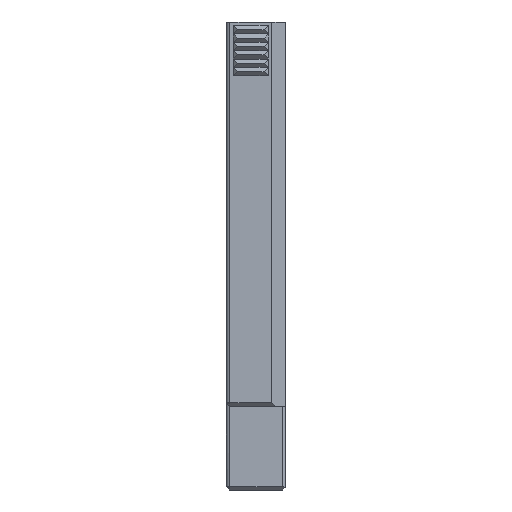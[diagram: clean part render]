
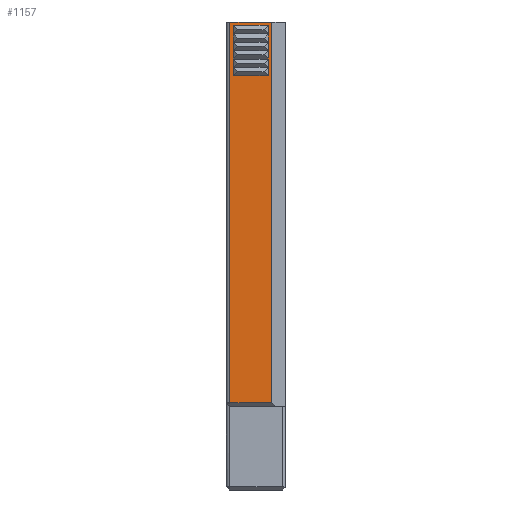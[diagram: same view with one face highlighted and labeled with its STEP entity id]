
A CAD part, left-side view. The second image highlights one B-rep face of the part: STEP entity #1157.
In plain terms, the highlighted planar face has unit normal (-1, 0, 0).
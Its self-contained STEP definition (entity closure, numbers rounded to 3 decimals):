
#1 = EDGE_LOOP ( 'NONE', ( #4301, #2356, #5612, #6328 ) ) ;
#10 = VECTOR ( 'NONE', #3123, 1000. ) ;
#36 = CARTESIAN_POINT ( 'NONE',  ( 0., 4., 0. ) ) ;
#44 = VERTEX_POINT ( 'NONE', #6958 ) ;
#98 = CARTESIAN_POINT ( 'NONE',  ( 0., 15., -8.2 ) ) ;
#125 = LINE ( 'NONE', #681, #4445 ) ;
#295 = LINE ( 'NONE', #5988, #6943 ) ;
#296 = DIRECTION ( 'NONE',  ( 0., 0., 1. ) ) ;
#351 = VERTEX_POINT ( 'NONE', #1301 ) ;
#419 = EDGE_CURVE ( 'NONE', #1735, #4214, #295, .T. ) ;
#429 = EDGE_CURVE ( 'NONE', #2175, #4507, #2673, .T. ) ;
#437 = VECTOR ( 'NONE', #5525, 1000. ) ;
#457 = EDGE_CURVE ( 'NONE', #3815, #3823, #1328, .T. ) ;
#483 = ORIENTED_EDGE ( 'NONE', *, *, #6180, .T. ) ;
#555 = CARTESIAN_POINT ( 'NONE',  ( 0., 5., -8.2 ) ) ;
#622 = VECTOR ( 'NONE', #2634, 1000. ) ;
#681 = CARTESIAN_POINT ( 'NONE',  ( 0., 15., -1. ) ) ;
#727 = CARTESIAN_POINT ( 'NONE',  ( 0., 15., -10.6 ) ) ;
#769 = VECTOR ( 'NONE', #7278, 1000. ) ;
#791 = VERTEX_POINT ( 'NONE', #4875 ) ;
#837 = ORIENTED_EDGE ( 'NONE', *, *, #419, .T. ) ;
#856 = DIRECTION ( 'NONE',  ( 0., 0., -1. ) ) ;
#866 = CARTESIAN_POINT ( 'NONE',  ( 0., 17., -109. ) ) ;
#945 = ORIENTED_EDGE ( 'NONE', *, *, #7198, .T. ) ;
#964 = ORIENTED_EDGE ( 'NONE', *, *, #2866, .T. ) ;
#1052 = CARTESIAN_POINT ( 'NONE',  ( 0., 5., -1. ) ) ;
#1103 = CARTESIAN_POINT ( 'NONE',  ( 0., 15., -13. ) ) ;
#1129 = DIRECTION ( 'NONE',  ( 0., 0., -1. ) ) ;
#1157 = ADVANCED_FACE ( 'NONE', ( #2219, #5362 ), #7482, .F. ) ;
#1176 = LINE ( 'NONE', #6540, #4481 ) ;
#1301 = CARTESIAN_POINT ( 'NONE',  ( 0., 15., -8.2 ) ) ;
#1328 = LINE ( 'NONE', #7119, #769 ) ;
#1463 = EDGE_CURVE ( 'NONE', #3199, #5294, #6476, .T. ) ;
#1559 = CARTESIAN_POINT ( 'NONE',  ( 0., 5., -8.2 ) ) ;
#1607 = VERTEX_POINT ( 'NONE', #6802 ) ;
#1613 = DIRECTION ( 'NONE',  ( 0., 0., -1. ) ) ;
#1659 = EDGE_CURVE ( 'NONE', #5436, #791, #6365, .T. ) ;
#1735 = VERTEX_POINT ( 'NONE', #4571 ) ;
#1932 = ORIENTED_EDGE ( 'NONE', *, *, #7181, .T. ) ;
#2135 = CARTESIAN_POINT ( 'NONE',  ( 0., 5., -1. ) ) ;
#2175 = VERTEX_POINT ( 'NONE', #1103 ) ;
#2178 = DIRECTION ( 'NONE',  ( 0., 0., -1. ) ) ;
#2200 = CARTESIAN_POINT ( 'NONE',  ( 0., 5., -15.4 ) ) ;
#2219 = FACE_BOUND ( 'NONE', #4636, .T. ) ;
#2328 = VECTOR ( 'NONE', #3560, 1000. ) ;
#2351 = LINE ( 'NONE', #5991, #4750 ) ;
#2356 = ORIENTED_EDGE ( 'NONE', *, *, #5216, .T. ) ;
#2385 = EDGE_CURVE ( 'NONE', #351, #1607, #5955, .T. ) ;
#2424 = VERTEX_POINT ( 'NONE', #6197 ) ;
#2426 = DIRECTION ( 'NONE',  ( 0., 0., 1. ) ) ;
#2459 = DIRECTION ( 'NONE',  ( 0., -1., 0. ) ) ;
#2473 = CARTESIAN_POINT ( 'NONE',  ( 0., 15., -10.6 ) ) ;
#2514 = ORIENTED_EDGE ( 'NONE', *, *, #3762, .T. ) ;
#2634 = DIRECTION ( 'NONE',  ( 0., 0., 1. ) ) ;
#2673 = LINE ( 'NONE', #2473, #2328 ) ;
#2684 = DIRECTION ( 'NONE',  ( 0., 0., -1. ) ) ;
#2687 = ORIENTED_EDGE ( 'NONE', *, *, #6350, .T. ) ;
#2784 = LINE ( 'NONE', #6991, #6683 ) ;
#2826 = LINE ( 'NONE', #866, #437 ) ;
#2844 = CARTESIAN_POINT ( 'NONE',  ( 0., 16., 0. ) ) ;
#2866 = EDGE_CURVE ( 'NONE', #4507, #351, #6398, .T. ) ;
#2884 = CARTESIAN_POINT ( 'NONE',  ( 0., 15., -3.4 ) ) ;
#2888 = VECTOR ( 'NONE', #7269, 1000. ) ;
#2918 = EDGE_CURVE ( 'NONE', #3252, #2424, #5837, .T. ) ;
#3024 = EDGE_CURVE ( 'NONE', #3252, #3823, #5747, .T. ) ;
#3044 = ORIENTED_EDGE ( 'NONE', *, *, #2385, .T. ) ;
#3070 = DIRECTION ( 'NONE',  ( 0., 0., 1. ) ) ;
#3097 = CARTESIAN_POINT ( 'NONE',  ( 0., 5., -3.4 ) ) ;
#3123 = DIRECTION ( 'NONE',  ( 0., 1., 0. ) ) ;
#3175 = EDGE_CURVE ( 'NONE', #5105, #4435, #2784, .T. ) ;
#3199 = VERTEX_POINT ( 'NONE', #2200 ) ;
#3252 = VERTEX_POINT ( 'NONE', #2844 ) ;
#3393 = CARTESIAN_POINT ( 'NONE',  ( 0., 17., -110. ) ) ;
#3462 = VECTOR ( 'NONE', #5987, 1000. ) ;
#3463 = VERTEX_POINT ( 'NONE', #2884 ) ;
#3560 = DIRECTION ( 'NONE',  ( 0., 0., 1. ) ) ;
#3661 = CARTESIAN_POINT ( 'NONE',  ( 0., 15., -5.8 ) ) ;
#3735 = CARTESIAN_POINT ( 'NONE',  ( 0., 5., -10.6 ) ) ;
#3759 = DIRECTION ( 'NONE',  ( 0., 0., -1. ) ) ;
#3762 = EDGE_CURVE ( 'NONE', #3463, #1735, #125, .T. ) ;
#3815 = VERTEX_POINT ( 'NONE', #5393 ) ;
#3823 = VERTEX_POINT ( 'NONE', #36 ) ;
#4117 = ORIENTED_EDGE ( 'NONE', *, *, #6518, .T. ) ;
#4199 = LINE ( 'NONE', #4411, #2888 ) ;
#4214 = VERTEX_POINT ( 'NONE', #1052 ) ;
#4246 = AXIS2_PLACEMENT_3D ( 'NONE', #3393, #4581, #1129 ) ;
#4260 = ORIENTED_EDGE ( 'NONE', *, *, #1463, .T. ) ;
#4301 = ORIENTED_EDGE ( 'NONE', *, *, #2918, .T. ) ;
#4378 = VECTOR ( 'NONE', #296, 1000. ) ;
#4388 = LINE ( 'NONE', #2135, #6780 ) ;
#4392 = ORIENTED_EDGE ( 'NONE', *, *, #6234, .T. ) ;
#4411 = CARTESIAN_POINT ( 'NONE',  ( 0., 5., -13. ) ) ;
#4435 = VERTEX_POINT ( 'NONE', #6531 ) ;
#4445 = VECTOR ( 'NONE', #5935, 1000. ) ;
#4481 = VECTOR ( 'NONE', #2426, 1000. ) ;
#4507 = VERTEX_POINT ( 'NONE', #727 ) ;
#4551 = VECTOR ( 'NONE', #6806, 1000. ) ;
#4571 = CARTESIAN_POINT ( 'NONE',  ( 0., 15., -1. ) ) ;
#4581 = DIRECTION ( 'NONE',  ( 1., 0., 0. ) ) ;
#4636 = EDGE_LOOP ( 'NONE', ( #2687, #945, #4260, #4392, #6002, #964, #3044, #483, #2514, #837, #4117, #5305, #1932, #7391 ) ) ;
#4750 = VECTOR ( 'NONE', #3759, 1000. ) ;
#4875 = CARTESIAN_POINT ( 'NONE',  ( 0., 5., -10.6 ) ) ;
#4945 = LINE ( 'NONE', #5590, #622 ) ;
#5104 = CARTESIAN_POINT ( 'NONE',  ( 0., 17., 0. ) ) ;
#5105 = VERTEX_POINT ( 'NONE', #3097 ) ;
#5216 = EDGE_CURVE ( 'NONE', #2424, #3815, #2826, .T. ) ;
#5294 = VERTEX_POINT ( 'NONE', #7271 ) ;
#5305 = ORIENTED_EDGE ( 'NONE', *, *, #3175, .T. ) ;
#5362 = FACE_OUTER_BOUND ( 'NONE', #1, .T. ) ;
#5393 = CARTESIAN_POINT ( 'NONE',  ( 0., 4., -109. ) ) ;
#5436 = VERTEX_POINT ( 'NONE', #555 ) ;
#5525 = DIRECTION ( 'NONE',  ( 0., -1., 0. ) ) ;
#5590 = CARTESIAN_POINT ( 'NONE',  ( 0., 15., -3.4 ) ) ;
#5612 = ORIENTED_EDGE ( 'NONE', *, *, #457, .T. ) ;
#5747 = LINE ( 'NONE', #5104, #4551 ) ;
#5837 = LINE ( 'NONE', #7270, #6605 ) ;
#5935 = DIRECTION ( 'NONE',  ( 0., 0., 1. ) ) ;
#5955 = LINE ( 'NONE', #3661, #4378 ) ;
#5987 = DIRECTION ( 'NONE',  ( 0., 0., -1. ) ) ;
#5988 = CARTESIAN_POINT ( 'NONE',  ( 0., 5., -1. ) ) ;
#5991 = CARTESIAN_POINT ( 'NONE',  ( 0., 5., -5.8 ) ) ;
#6002 = ORIENTED_EDGE ( 'NONE', *, *, #429, .T. ) ;
#6170 = VECTOR ( 'NONE', #2178, 1000. ) ;
#6180 = EDGE_CURVE ( 'NONE', #1607, #3463, #4945, .T. ) ;
#6197 = CARTESIAN_POINT ( 'NONE',  ( 0., 16., -109. ) ) ;
#6234 = EDGE_CURVE ( 'NONE', #5294, #2175, #1176, .T. ) ;
#6328 = ORIENTED_EDGE ( 'NONE', *, *, #3024, .F. ) ;
#6350 = EDGE_CURVE ( 'NONE', #791, #44, #6700, .T. ) ;
#6365 = LINE ( 'NONE', #1559, #6170 ) ;
#6398 = LINE ( 'NONE', #98, #7593 ) ;
#6476 = LINE ( 'NONE', #6686, #10 ) ;
#6518 = EDGE_CURVE ( 'NONE', #4214, #5105, #4388, .T. ) ;
#6531 = CARTESIAN_POINT ( 'NONE',  ( 0., 5., -5.8 ) ) ;
#6540 = CARTESIAN_POINT ( 'NONE',  ( 0., 15., -13. ) ) ;
#6605 = VECTOR ( 'NONE', #856, 1000. ) ;
#6683 = VECTOR ( 'NONE', #1613, 1000. ) ;
#6686 = CARTESIAN_POINT ( 'NONE',  ( 0., 5., -15.4 ) ) ;
#6700 = LINE ( 'NONE', #3735, #3462 ) ;
#6780 = VECTOR ( 'NONE', #2684, 1000. ) ;
#6802 = CARTESIAN_POINT ( 'NONE',  ( 0., 15., -5.8 ) ) ;
#6806 = DIRECTION ( 'NONE',  ( 0., -1., 0. ) ) ;
#6943 = VECTOR ( 'NONE', #2459, 1000. ) ;
#6958 = CARTESIAN_POINT ( 'NONE',  ( 0., 5., -13. ) ) ;
#6991 = CARTESIAN_POINT ( 'NONE',  ( 0., 5., -3.4 ) ) ;
#7119 = CARTESIAN_POINT ( 'NONE',  ( 0., 4., -110. ) ) ;
#7181 = EDGE_CURVE ( 'NONE', #4435, #5436, #2351, .T. ) ;
#7198 = EDGE_CURVE ( 'NONE', #44, #3199, #4199, .T. ) ;
#7269 = DIRECTION ( 'NONE',  ( 0., 0., -1. ) ) ;
#7270 = CARTESIAN_POINT ( 'NONE',  ( 0., 16., -110. ) ) ;
#7271 = CARTESIAN_POINT ( 'NONE',  ( 0., 15., -15.4 ) ) ;
#7278 = DIRECTION ( 'NONE',  ( 0., 0., 1. ) ) ;
#7391 = ORIENTED_EDGE ( 'NONE', *, *, #1659, .T. ) ;
#7482 = PLANE ( 'NONE',  #4246 ) ;
#7593 = VECTOR ( 'NONE', #3070, 1000. ) ;
